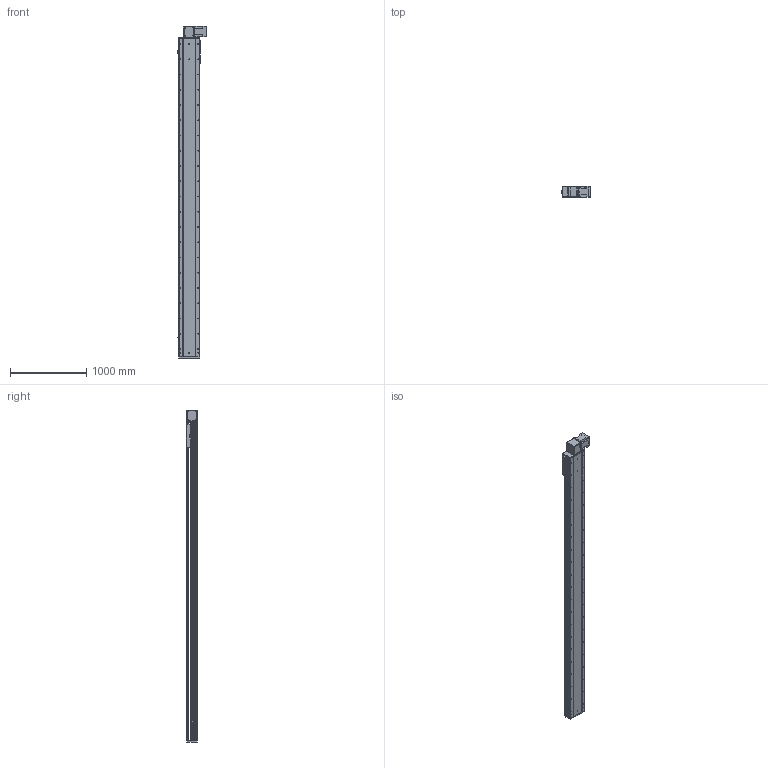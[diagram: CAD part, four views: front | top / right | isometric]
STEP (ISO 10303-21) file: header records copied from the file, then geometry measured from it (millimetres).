
FILE_DESCRIPTION (( 'STEP AP214' ), '1' );
FILE_NAME ('RTB28S-XX-3750-BL-M100-XX-C4.STEP', '2025-12-22T02:41:04', ( '' ), ( '' ), 'SwSTEP 2.0', 'SolidWorks 2018', '' );
FILE_SCHEMA (( 'AUTOMOTIVE_DESIGN' ));
Length unit declared in the file: millimetre
Products named in the file (4): RTB28S-GY-008^RTB28S-XX-XX-BL-M100-XX-C4; RTB28S-GY-004^RTB28S-XX-XX-BL-M100-XX-C4; RTB28S-GY-011^RTB28S-XX-XX-BL-M100-XX-C4; RTB28S-XX-3750-BL-M100-XX-C4
Assembly tree (3 placements, depth 2):
  RTB28S-XX-3750-BL-M100-XX-C4
    RTB28S-GY-011^RTB28S-XX-XX-BL-M100-XX-C4
    RTB28S-GY-004^RTB28S-XX-XX-BL-M100-XX-C4
    RTB28S-GY-008^RTB28S-XX-XX-BL-M100-XX-C4
Bounding box: 380.7 x 145 x 4357 mm (x, y, z)
Volume: 72915060.9 mm3; surface area: 6770881.9 mm2
Topology: 3 solids, 4 shells, 928 faces, 2508 edges, 1608 vertices
Faces by surface type: cylinder 471, plane 373, cone 80, torus 4
Entity records: 36317 total; most frequent: CARTESIAN_POINT 7102, DIRECTION 5346, ORIENTED_EDGE 4952, EDGE_CURVE 2476, AXIS2_PLACEMENT_3D 1988, VERTEX_POINT 1608, LINE 1370, VECTOR 1370
